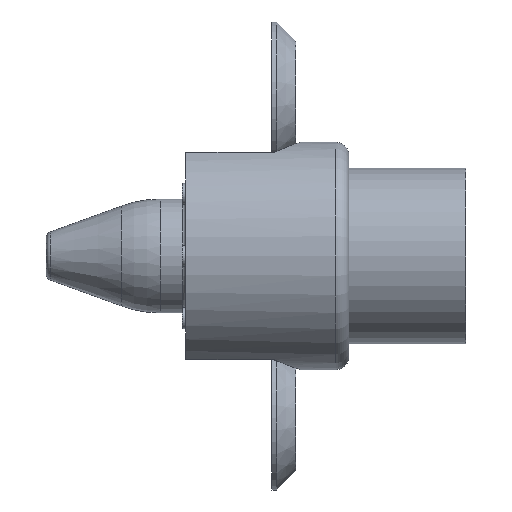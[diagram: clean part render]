
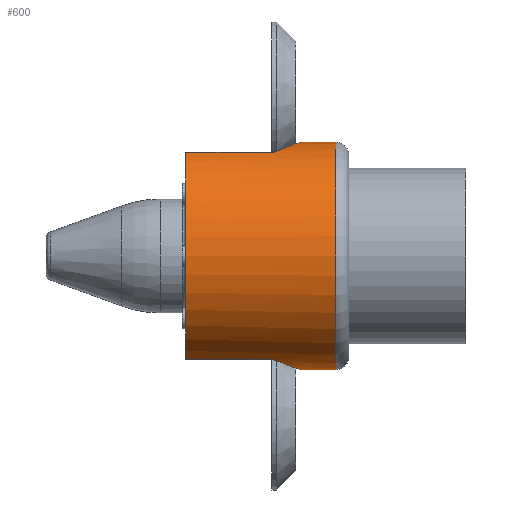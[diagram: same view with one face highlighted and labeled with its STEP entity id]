
A CAD part, left-side view. The second image highlights one B-rep face of the part: STEP entity #600.
In plain terms, the highlighted cylindrical face has radius 13 mm (diameter 26 mm), a partial arc.
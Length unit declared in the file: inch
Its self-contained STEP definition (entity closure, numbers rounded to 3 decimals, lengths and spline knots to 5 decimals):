
#7 = LINE ( 'NONE', #1760, #1665 ) ;
#26 = CARTESIAN_POINT ( 'NONE',  ( -0.20747, 0.33921, -0.46787 ) ) ;
#37 = CARTESIAN_POINT ( 'NONE',  ( -0.20571, 0.33128, -0.46866 ) ) ;
#48 = VERTEX_POINT ( 'NONE', #662 ) ;
#61 = CARTESIAN_POINT ( 'NONE',  ( -0.0102, 0.21654, -0.51181 ) ) ;
#67 = CARTESIAN_POINT ( 'NONE',  ( -0.09538, 0.24421, -0.50313 ) ) ;
#94 = ORIENTED_EDGE ( 'NONE', *, *, #1127, .F. ) ;
#109 = CARTESIAN_POINT ( 'NONE',  ( -0.12894, 0.26574, 0.4956 ) ) ;
#127 = CARTESIAN_POINT ( 'NONE',  ( 0., 0.06, 0.51181 ) ) ;
#131 = CARTESIAN_POINT ( 'NONE',  ( 0., 0.735, 0.51181 ) ) ;
#142 = VERTEX_POINT ( 'NONE', #127 ) ;
#147 = DIRECTION ( 'NONE',  ( 0., -1., 0. ) ) ;
#157 = LINE ( 'NONE', #1574, #720 ) ;
#175 = EDGE_CURVE ( 'NONE', #1733, #1219, #1335, .T. ) ;
#214 = CARTESIAN_POINT ( 'NONE',  ( -0.14452, 0.27751, -0.49124 ) ) ;
#235 = VECTOR ( 'NONE', #419, 39.37008 ) ;
#240 = DIRECTION ( 'NONE',  ( 0., 1., 0. ) ) ;
#250 = VERTEX_POINT ( 'NONE', #1322 ) ;
#277 = DIRECTION ( 'NONE',  ( 0., 0., 1. ) ) ;
#281 = B_SPLINE_CURVE_WITH_KNOTS ( 'NONE', 3,
 ( #1692, #61, #1231, #1389, #1682, #946, #67, #1091, #214, #1238, #1100, #1396 ),
 .UNSPECIFIED., .F., .F.,
 ( 4, 2, 2, 2, 2, 4 ),
 ( 0.00629, 0.00705, 0.00782, 0.00935, 0.01088, 0.01241 ),
 .UNSPECIFIED. ) ;
#303 = B_SPLINE_CURVE_WITH_KNOTS ( 'NONE', 3,
 ( #26, #467, #37, #1643 ),
 .UNSPECIFIED., .F., .F.,
 ( 4, 4 ),
 ( 0., 0.0003 ),
 .UNSPECIFIED. ) ;
#310 = CARTESIAN_POINT ( 'NONE',  ( 0., 0.06, 0. ) ) ;
#320 = VERTEX_POINT ( 'NONE', #1210 ) ;
#322 = VECTOR ( 'NONE', #240, 39.37008 ) ;
#335 = CIRCLE ( 'NONE', #1424, 0.51181 ) ;
#342 = LINE ( 'NONE', #672, #322 ) ;
#397 = CARTESIAN_POINT ( 'NONE',  ( -0.07792, 0.23475, 0.5062 ) ) ;
#419 = DIRECTION ( 'NONE',  ( 0., -1., 0. ) ) ;
#467 = CARTESIAN_POINT ( 'NONE',  ( -0.20747, 0.33515, -0.46787 ) ) ;
#498 = ORIENTED_EDGE ( 'NONE', *, *, #1660, .F. ) ;
#543 = DIRECTION ( 'NONE',  ( 0., 1., 0. ) ) ;
#584 = EDGE_CURVE ( 'NONE', #1733, #320, #691, .T. ) ;
#591 = EDGE_CURVE ( 'NONE', #48, #320, #157, .T. ) ;
#600 = ADVANCED_FACE ( 'NONE', ( #939 ), #1232, .T. ) ;
#620 = EDGE_CURVE ( 'NONE', #1766, #48, #335, .T. ) ;
#662 = CARTESIAN_POINT ( 'NONE',  ( -0.20747, 0.735, 0.46787 ) ) ;
#672 = CARTESIAN_POINT ( 'NONE',  ( -0.20747, 0.55906, -0.46787 ) ) ;
#686 = CARTESIAN_POINT ( 'NONE',  ( 0., 0.735, 0. ) ) ;
#687 = CARTESIAN_POINT ( 'NONE',  ( -0.0202, 0.21756, 0.51151 ) ) ;
#691 = B_SPLINE_CURVE_WITH_KNOTS ( 'NONE', 3,
 ( #1885, #830, #1121, #983 ),
 .UNSPECIFIED., .F., .F.,
 ( 4, 4 ),
 ( 0., 0.00031 ),
 .UNSPECIFIED. ) ;
#695 = CARTESIAN_POINT ( 'NONE',  ( -0.1446, 0.27757, 0.49122 ) ) ;
#720 = VECTOR ( 'NONE', #960, 39.37008 ) ;
#724 = ORIENTED_EDGE ( 'NONE', *, *, #1566, .F. ) ;
#730 = CARTESIAN_POINT ( 'NONE',  ( -0.20747, 0.735, -0.46787 ) ) ;
#732 = CARTESIAN_POINT ( 'NONE',  ( 0., 0.21654, 0.51181 ) ) ;
#801 = ORIENTED_EDGE ( 'NONE', *, *, #620, .F. ) ;
#830 = CARTESIAN_POINT ( 'NONE',  ( -0.20571, 0.33128, 0.46866 ) ) ;
#851 = EDGE_LOOP ( 'NONE', ( #94, #1343, #1642, #1705, #801, #498, #1617, #724, #1639, #1668 ) ) ;
#893 = VERTEX_POINT ( 'NONE', #1233 ) ;
#901 = DIRECTION ( 'NONE',  ( 0., 1., 0. ) ) ;
#939 = FACE_OUTER_BOUND ( 'NONE', #851, .T. ) ;
#946 = CARTESIAN_POINT ( 'NONE',  ( -0.07795, 0.23477, -0.5062 ) ) ;
#960 = DIRECTION ( 'NONE',  ( 0., -1., 0. ) ) ;
#983 = CARTESIAN_POINT ( 'NONE',  ( -0.20747, 0.33921, 0.46787 ) ) ;
#992 = CIRCLE ( 'NONE', #1750, 0.51181 ) ;
#1014 = CARTESIAN_POINT ( 'NONE',  ( 0., 0.21654, 0.51181 ) ) ;
#1091 = CARTESIAN_POINT ( 'NONE',  ( -0.12873, 0.2656, -0.49565 ) ) ;
#1100 = CARTESIAN_POINT ( 'NONE',  ( -0.189, 0.31529, -0.47588 ) ) ;
#1121 = CARTESIAN_POINT ( 'NONE',  ( -0.20747, 0.33515, 0.46787 ) ) ;
#1127 = EDGE_CURVE ( 'NONE', #1219, #142, #1225, .T. ) ;
#1173 = VERTEX_POINT ( 'NONE', #1309 ) ;
#1210 = CARTESIAN_POINT ( 'NONE',  ( -0.20747, 0.33921, 0.46787 ) ) ;
#1219 = VERTEX_POINT ( 'NONE', #732 ) ;
#1225 = LINE ( 'NONE', #131, #235 ) ;
#1231 = CARTESIAN_POINT ( 'NONE',  ( -0.02021, 0.21756, -0.51151 ) ) ;
#1232 = CYLINDRICAL_SURFACE ( 'NONE', #1696, 0.51181 ) ;
#1233 = CARTESIAN_POINT ( 'NONE',  ( 0., 0.06, -0.51181 ) ) ;
#1238 = CARTESIAN_POINT ( 'NONE',  ( -0.17461, 0.30231, -0.48136 ) ) ;
#1263 = EDGE_CURVE ( 'NONE', #893, #142, #992, .T. ) ;
#1284 = CARTESIAN_POINT ( 'NONE',  ( -0.09547, 0.24426, 0.50312 ) ) ;
#1309 = CARTESIAN_POINT ( 'NONE',  ( -0.20291, 0.32861, -0.46987 ) ) ;
#1322 = CARTESIAN_POINT ( 'NONE',  ( 0., 0.21654, -0.51181 ) ) ;
#1335 = B_SPLINE_CURVE_WITH_KNOTS ( 'NONE', 3,
 ( #1732, #1886, #1573, #695, #109, #1284, #397, #1898, #1579, #687, #1742, #1014 ),
 .UNSPECIFIED., .F., .F.,
 ( 4, 2, 2, 2, 2, 4 ),
 ( 0.00017, 0.0017, 0.00323, 0.00476, 0.00552, 0.00629 ),
 .UNSPECIFIED. ) ;
#1343 = ORIENTED_EDGE ( 'NONE', *, *, #175, .F. ) ;
#1348 = CARTESIAN_POINT ( 'NONE',  ( -0.20747, 0.33921, -0.46787 ) ) ;
#1389 = CARTESIAN_POINT ( 'NONE',  ( -0.03991, 0.22141, -0.51035 ) ) ;
#1396 = CARTESIAN_POINT ( 'NONE',  ( -0.20291, 0.32861, -0.46987 ) ) ;
#1419 = DIRECTION ( 'NONE',  ( 0., -1., 0. ) ) ;
#1424 = AXIS2_PLACEMENT_3D ( 'NONE', #686, #543, #277 ) ;
#1566 = EDGE_CURVE ( 'NONE', #250, #1173, #281, .T. ) ;
#1573 = CARTESIAN_POINT ( 'NONE',  ( -0.17463, 0.30233, 0.48136 ) ) ;
#1574 = CARTESIAN_POINT ( 'NONE',  ( -0.20747, 0.55906, 0.46787 ) ) ;
#1579 = CARTESIAN_POINT ( 'NONE',  ( -0.03988, 0.2214, 0.51035 ) ) ;
#1617 = ORIENTED_EDGE ( 'NONE', *, *, #1915, .T. ) ;
#1639 = ORIENTED_EDGE ( 'NONE', *, *, #1776, .T. ) ;
#1642 = ORIENTED_EDGE ( 'NONE', *, *, #584, .T. ) ;
#1643 = CARTESIAN_POINT ( 'NONE',  ( -0.20291, 0.32861, -0.46987 ) ) ;
#1660 = EDGE_CURVE ( 'NONE', #1880, #1766, #342, .T. ) ;
#1665 = VECTOR ( 'NONE', #147, 39.37008 ) ;
#1668 = ORIENTED_EDGE ( 'NONE', *, *, #1263, .T. ) ;
#1682 = CARTESIAN_POINT ( 'NONE',  ( -0.04967, 0.22425, -0.50948 ) ) ;
#1692 = CARTESIAN_POINT ( 'NONE',  ( 0., 0.21654, -0.51181 ) ) ;
#1696 = AXIS2_PLACEMENT_3D ( 'NONE', #1724, #1419, #1709 ) ;
#1705 = ORIENTED_EDGE ( 'NONE', *, *, #591, .F. ) ;
#1709 = DIRECTION ( 'NONE',  ( 0., 0., -1. ) ) ;
#1724 = CARTESIAN_POINT ( 'NONE',  ( 0., 0.735, 0. ) ) ;
#1732 = CARTESIAN_POINT ( 'NONE',  ( -0.20291, 0.32861, 0.46987 ) ) ;
#1733 = VERTEX_POINT ( 'NONE', #1910 ) ;
#1742 = CARTESIAN_POINT ( 'NONE',  ( -0.01019, 0.21654, 0.51181 ) ) ;
#1750 = AXIS2_PLACEMENT_3D ( 'NONE', #310, #901, #1779 ) ;
#1760 = CARTESIAN_POINT ( 'NONE',  ( 0., 0.735, -0.51181 ) ) ;
#1766 = VERTEX_POINT ( 'NONE', #730 ) ;
#1776 = EDGE_CURVE ( 'NONE', #250, #893, #7, .T. ) ;
#1779 = DIRECTION ( 'NONE',  ( 0., 0., 1. ) ) ;
#1880 = VERTEX_POINT ( 'NONE', #1348 ) ;
#1885 = CARTESIAN_POINT ( 'NONE',  ( -0.20291, 0.32861, 0.46987 ) ) ;
#1886 = CARTESIAN_POINT ( 'NONE',  ( -0.189, 0.31529, 0.47588 ) ) ;
#1898 = CARTESIAN_POINT ( 'NONE',  ( -0.04963, 0.22424, 0.50949 ) ) ;
#1910 = CARTESIAN_POINT ( 'NONE',  ( -0.20291, 0.32861, 0.46987 ) ) ;
#1915 = EDGE_CURVE ( 'NONE', #1880, #1173, #303, .T. ) ;
